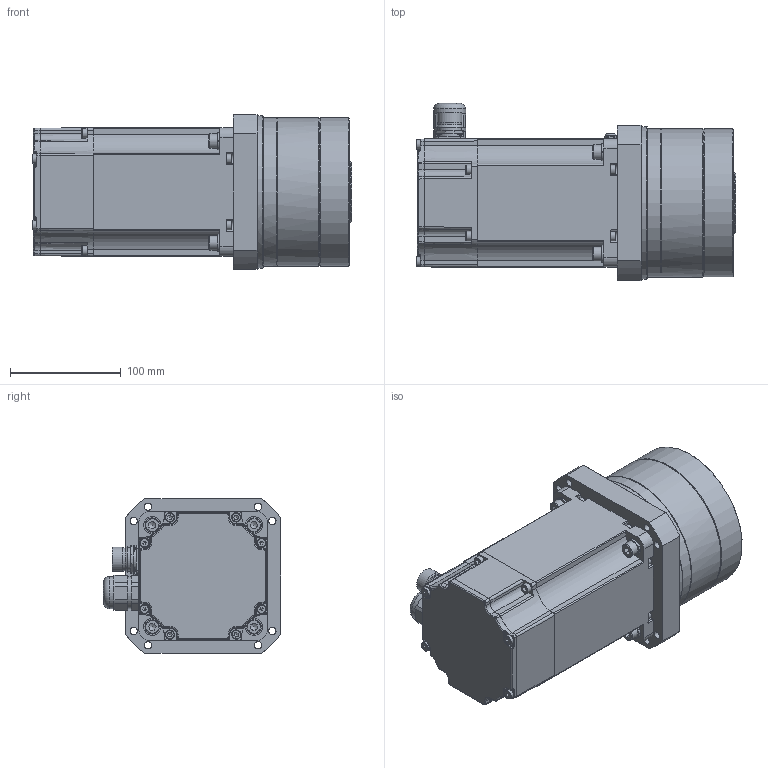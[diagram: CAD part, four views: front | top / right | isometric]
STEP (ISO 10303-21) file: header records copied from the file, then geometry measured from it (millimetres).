
FILE_DESCRIPTION(/* description */ (''),/* implementation_level */ '2;1');
FILE_NAME(/* name */ 'C:\Users\Sij_Takitani\Desktop\ECO_M.stp',/* time_stamp */ '2020-10-14T08:36:29+09:00',/* author */ ('Sij_Takitani'),/* organization */ (''),/* preprocessor_version */ 'ST-DEVELOPER v17',/* originating_system */ 'Autodesk Inventor 2018',/* authorisation */ '');
FILE_SCHEMA (('AUTOMOTIVE_DESIGN { 1 0 10303 214 3 1 1 }'));
Products named in the file (5): Assembly2; ECO_M(509 & B63); COM0A202001_motore B63; 009M008R020NG; 062W008----NG
Assembly tree (10 placements, depth 2):
  Assembly2
    ECO_M(509 & B63)
    COM0A202001_motore B63
    009M008R020NG  x4
    062W008----NG  x4
Bounding box: 288.5 x 160 x 140 mm (x, y, z)
Volume: 3697140.3 mm3; surface area: 244771.7 mm2
Topology: 10 solids, 75 shells, 2249 faces, 5992 edges, 3937 vertices
Faces by surface type: plane 983, cylinder 451, bspline 436, cone 269, torus 100, sphere 10
Full cylindrical faces by diameter (mm): 1.93 x4, 2 x1, 2.1 x4, 2.5 x4, 2.8 x4, 4 x1, 4.134 x16, 4.99 x1, 5 x17, 6.647 x28, 8 x5, 8.5 x16, 10 x1, 13 x12, 14 x8, 16.4 x1, 18.5 x1, 19 x1, 19.3 x1, 20 x2, 21 x1, 21.3 x1, 22 x1, 24.2 x1, 25 x1, 29 x2, 31.5 x1, 35 x1, 55 x1, 72 x2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
Entity records: 75233 total; most frequent: CARTESIAN_POINT 21044, ORIENTED_EDGE 11538, DIRECTION 9781, EDGE_CURVE 5769, VERTEX_POINT 3835, AXIS2_PLACEMENT_3D 3457, LINE 2867, VECTOR 2867
